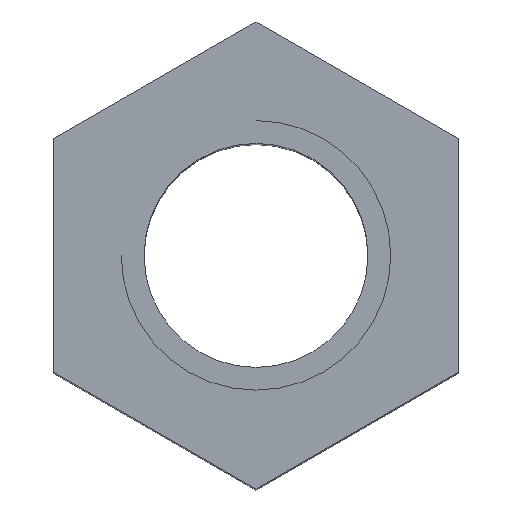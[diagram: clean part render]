
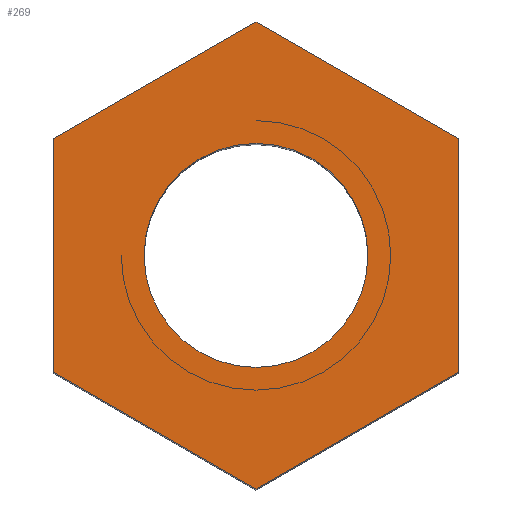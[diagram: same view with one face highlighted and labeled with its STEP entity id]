
A CAD part, top view. The second image highlights one B-rep face of the part: STEP entity #269.
In plain terms, the highlighted planar face has unit normal (0, 0, 1).
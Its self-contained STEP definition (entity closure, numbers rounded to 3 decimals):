
#25=PLANE('',#307);
#30=FACE_BOUND('',#57,.T.);
#41=FACE_OUTER_BOUND('',#56,.T.);
#56=EDGE_LOOP('',(#237,#238,#239,#240,#241,#242));
#57=EDGE_LOOP('',(#243));
#66=CIRCLE('',#300,3.324);
#75=LINE('',#516,#99);
#78=LINE('',#522,#102);
#81=LINE('',#528,#105);
#84=LINE('',#534,#108);
#87=LINE('',#540,#111);
#90=LINE('',#544,#114);
#99=VECTOR('',#340,10.);
#102=VECTOR('',#345,10.);
#105=VECTOR('',#350,10.);
#108=VECTOR('',#355,10.);
#111=VECTOR('',#360,10.);
#114=VECTOR('',#365,10.);
#132=VERTEX_POINT('',#506);
#135=VERTEX_POINT('',#513);
#136=VERTEX_POINT('',#515);
#138=VERTEX_POINT('',#521);
#140=VERTEX_POINT('',#527);
#142=VERTEX_POINT('',#533);
#144=VERTEX_POINT('',#539);
#163=EDGE_CURVE('',#132,#132,#66,.T.);
#166=EDGE_CURVE('',#136,#135,#75,.T.);
#169=EDGE_CURVE('',#138,#136,#78,.T.);
#172=EDGE_CURVE('',#140,#138,#81,.T.);
#175=EDGE_CURVE('',#142,#140,#84,.T.);
#178=EDGE_CURVE('',#144,#142,#87,.T.);
#181=EDGE_CURVE('',#135,#144,#90,.T.);
#237=ORIENTED_EDGE('',*,*,#181,.T.);
#238=ORIENTED_EDGE('',*,*,#178,.T.);
#239=ORIENTED_EDGE('',*,*,#175,.T.);
#240=ORIENTED_EDGE('',*,*,#172,.T.);
#241=ORIENTED_EDGE('',*,*,#169,.T.);
#242=ORIENTED_EDGE('',*,*,#166,.T.);
#243=ORIENTED_EDGE('',*,*,#163,.T.);
#269=ADVANCED_FACE('',(#41,#30),#25,.T.);
#300=AXIS2_PLACEMENT_3D('',#508,#334,#335);
#307=AXIS2_PLACEMENT_3D('',#545,#366,#367);
#334=DIRECTION('center_axis',(0.,0.,-1.));
#335=DIRECTION('ref_axis',(-1.,0.,0.));
#340=DIRECTION('',(0.866,-0.5,0.));
#345=DIRECTION('',(0.,-1.,0.));
#350=DIRECTION('',(-0.866,-0.5,0.));
#355=DIRECTION('',(-0.866,0.5,0.));
#360=DIRECTION('',(0.,1.,0.));
#365=DIRECTION('',(0.866,0.5,0.));
#366=DIRECTION('center_axis',(0.,0.,1.));
#367=DIRECTION('ref_axis',(1.,0.,0.));
#506=CARTESIAN_POINT('',(3.324,0.,20.));
#508=CARTESIAN_POINT('Origin',(0.,0.,20.));
#513=CARTESIAN_POINT('',(0.,-6.928,20.));
#515=CARTESIAN_POINT('',(-6.,-3.464,20.));
#516=CARTESIAN_POINT('',(-6.,-3.464,20.));
#521=CARTESIAN_POINT('',(-6.,3.464,20.));
#522=CARTESIAN_POINT('',(-6.,3.464,20.));
#527=CARTESIAN_POINT('',(0.,6.928,20.));
#528=CARTESIAN_POINT('',(0.,6.928,20.));
#533=CARTESIAN_POINT('',(6.,3.464,20.));
#534=CARTESIAN_POINT('',(6.,3.464,20.));
#539=CARTESIAN_POINT('',(6.,-3.464,20.));
#540=CARTESIAN_POINT('',(6.,-3.464,20.));
#544=CARTESIAN_POINT('',(0.,-6.928,20.));
#545=CARTESIAN_POINT('Origin',(0.,0.,20.));
